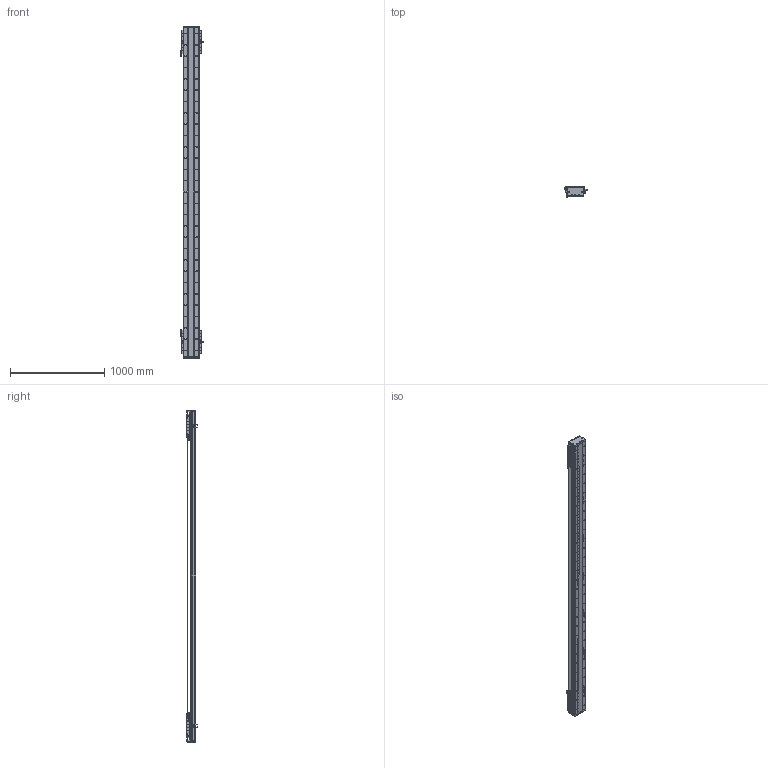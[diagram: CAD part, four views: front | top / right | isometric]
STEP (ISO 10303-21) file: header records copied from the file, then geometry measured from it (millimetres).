
FILE_DESCRIPTION (( 'STEP AP203' ), '1' );
FILE_NAME ('DA-C165-2-C3-T2900-C010-0.2 直线电机.STEP', '2023-06-13T09:13:04', ( '微软用户' ), ( '微软中国' ), 'SwSTEP 2.0', 'SolidWorks 2019', '' );
FILE_SCHEMA (( 'CONFIG_CONTROL_DESIGN' ));
Length unit declared in the file: millimetre
Products named in the file (22): 复件 六角薄螺母 M3^DA-C165-C3-T-C010-0.2-N 直线电机_GB_FASTENER_NUT_STNAB M3-C; 复件 DA165-GD-DG-H-00 端盖^复件 CU165钢带组件_DA-C165-C3-T-C010-0.2-N 直线电机; 复件 DA165-GYP-00 光电感应片^DA-C165-C3-T-C010-0.2-N 直线电机; 葩璃 PM-T45^DA-C165-C3-T-C010-0.2-N 眻盄萇儂; DA-C165-2-C3-T2900-C010-0.2 眻盄萇儂; 复件 DA165-GDLK-00 钢带拉块^复件 CU165钢带组件_DA-C165-C3-T-C010-0.2-N 直线电机; 葩璃 CKM01-W075-TRL^DA-C165-C3-T-C010-0.2-N 眻盄萇儂; IU-CU165-L 菁釱絳寢; 复件 DA126-GYP-ZJ-00 中间光电感应片^DA-C165-C3-T-C010-0.2-N 直线电机; 复件 DA95-HXJ-00 缓冲橡胶^DA-C165-C3-T-C010-0.2-N 直线电机; 珨极趙賑雄怢啣C3-wf; 复件 DKW-HXJ-JY-00 缓冲橡胶^DA-C165-C3-T-C010-0.2-N 直线电机; 葩璃 DA95-GT-T-00^IU-CU165-L 菁釱絳寢_T; 复件 DA165-GDYK-00 钢带压块^复件 CU165钢带组件_DA-C165-C3-T-C010-0.2-N 直线电机; 葩璃 PM-Y45^DA-C165-C3-T-C010-0.2-N 眻盄萇儂; 葩璃 CKM03-W075-C1C2-TP-3.0^DA-C165-C3-T-C010-0.2-N 眻盄萇儂; 复件 DMA-010-0.2 读数头^DA-C165-C3-T-C010-0.2-N 直线电机; 复件 CU165 底座^IU-CU165-L 底座导轨_L3480; 复件 DA165-GD-1860-002-00 钢带盖板^复件 CU165钢带组件_DA-C165-C3-T-C010-0.2-N 直线电机; 复件 66338-1000-006-00 光电感应块^DA-C165-C3-T-C010-0.2-N 直线电机; 复件 XD-U-02L 磁栅尺^DA-C165-C3-T-C010-0.2-N 直线电机_T; 复件 CU165钢带组件^DA-C165-C3-T-C010-0.2-N 直线电机
Assembly tree (45 placements, depth 3):
  DA-C165-2-C3-T2900-C010-0.2 眻盄萇儂
    IU-CU165-L 菁釱絳寢
      复件 CU165 底座^IU-CU165-L 底座导轨_L3480
      葩璃 DA95-GT-T-00^IU-CU165-L 菁釱絳寢_T  x4
    复件 XD-U-02L 磁栅尺^DA-C165-C3-T-C010-0.2-N 直线电机_T
    葩璃 PM-T45^DA-C165-C3-T-C010-0.2-N 眻盄萇儂  x4
    葩璃 CKM01-W075-TRL^DA-C165-C3-T-C010-0.2-N 眻盄萇儂
    复件 CU165钢带组件^DA-C165-C3-T-C010-0.2-N 直线电机
      复件 DA165-GD-DG-H-00 端盖^复件 CU165钢带组件_DA-C165-C3-T-C010-0.2-N 直线电机  x2
      复件 DA165-GDYK-00 钢带压块^复件 CU165钢带组件_DA-C165-C3-T-C010-0.2-N 直线电机  x2
      复件 DA165-GD-1860-002-00 钢带盖板^复件 CU165钢带组件_DA-C165-C3-T-C010-0.2-N 直线电机
      复件 DA165-GDLK-00 钢带拉块^复件 CU165钢带组件_DA-C165-C3-T-C010-0.2-N 直线电机  x2
    复件 DA95-HXJ-00 缓冲橡胶^DA-C165-C3-T-C010-0.2-N 直线电机  x4
    复件 DMA-010-0.2 读数头^DA-C165-C3-T-C010-0.2-N 直线电机  x2
    复件 DA165-GYP-00 光电感应片^DA-C165-C3-T-C010-0.2-N 直线电机  x2
    复件 66338-1000-006-00 光电感应块^DA-C165-C3-T-C010-0.2-N 直线电机
    葩璃 PM-Y45^DA-C165-C3-T-C010-0.2-N 眻盄萇儂
    复件 DA126-GYP-ZJ-00 中间光电感应片^DA-C165-C3-T-C010-0.2-N 直线电机
    葩璃 CKM03-W075-C1C2-TP-3.0^DA-C165-C3-T-C010-0.2-N 眻盄萇儂  x2
    复件 DKW-HXJ-JY-00 缓冲橡胶^DA-C165-C3-T-C010-0.2-N 直线电机  x2
    复件 六角薄螺母 M3^DA-C165-C3-T-C010-0.2-N 直线电机_GB_FASTENER_NUT_STNAB M3-C  x8
    珨极趙賑雄怢啣C3-wf  x2
Bounding box: 247.2 x 111.45 x 3520 mm (x, y, z)
Volume: 21539848.9 mm3; surface area: 6242639 mm2
Topology: 121 solids, 221 shells, 7001 faces, 19562 edges, 12258 vertices
Faces by surface type: cylinder 3886, plane 2047, cone 980, torus 80, sphere 8
Entity records: 170524 total; most frequent: CARTESIAN_POINT 47437, ORIENTED_EDGE 25708, DIRECTION 24668, EDGE_CURVE 12854, AXIS2_PLACEMENT_3D 9467, VERTEX_POINT 8412, EDGE_LOOP 5908, VECTOR 5734
